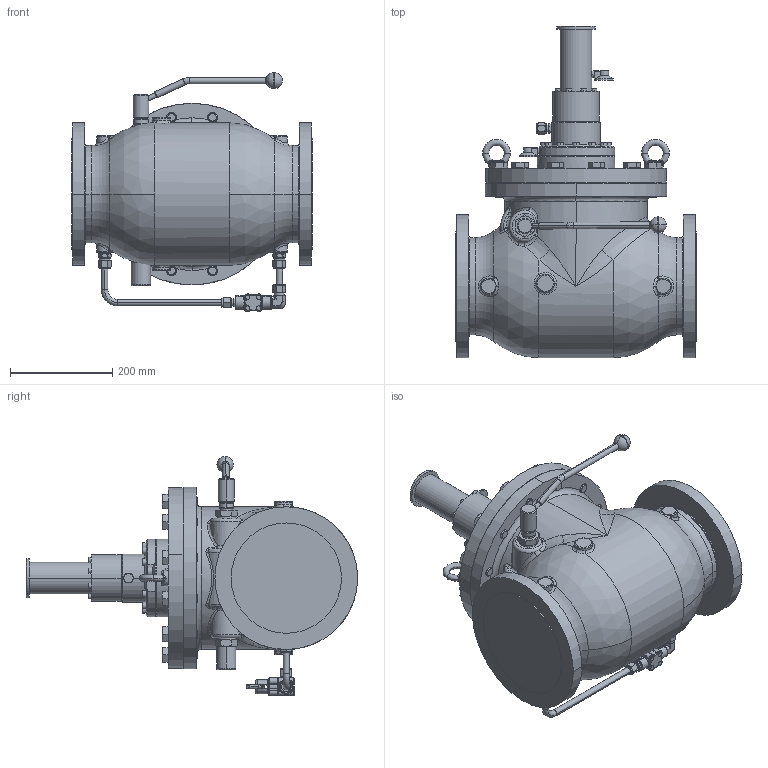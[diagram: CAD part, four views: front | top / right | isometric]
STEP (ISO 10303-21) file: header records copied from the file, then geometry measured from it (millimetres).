
FILE_DESCRIPTION((''),'2;1');
FILE_NAME('126019_GIPS_HL_6-150_SW0004','2019-06-27T',('jjunior'),(''),'PRO/ENGINEER BY PARAMETRIC TECHNOLOGY CORPORATION, 2010160','PRO/ENGINEER BY PARAMETRIC TECHNOLOGY CORPORATION, 2010160','');
FILE_SCHEMA(('CONFIG_CONTROL_DESIGN'));
Products named in the file (1): 126019_GIPS_HL_6-150_SW0004
Bounding box: 470 x 648.5 x 467.82 mm (x, y, z)
Volume: 35921986.2 mm3; surface area: 1118040.9 mm2
Topology: 1 solids, 5 shells, 1723 faces, 4023 edges, 2428 vertices
Faces by surface type: plane 558, cylinder 439, cone 340, torus 222, bspline 152, sphere 12
Entity records: 68697 total; most frequent: CARTESIAN_POINT 30345, DIRECTION 8019, ORIENTED_EDGE 8006, EDGE_CURVE 4003, AXIS2_PLACEMENT_3D 3280, VERTEX_POINT 2428, EDGE_LOOP 1903, FACE_OUTER_BOUND 1723
